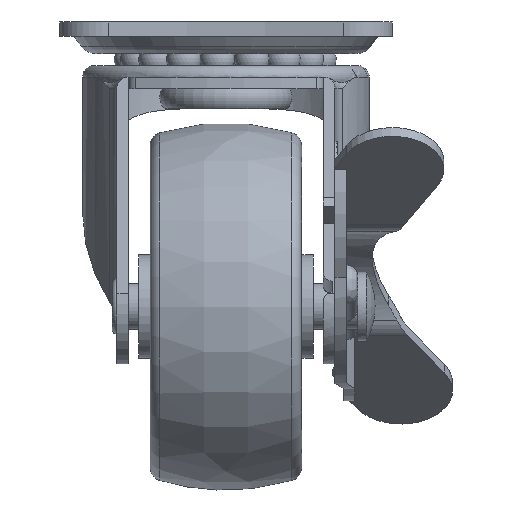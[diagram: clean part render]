
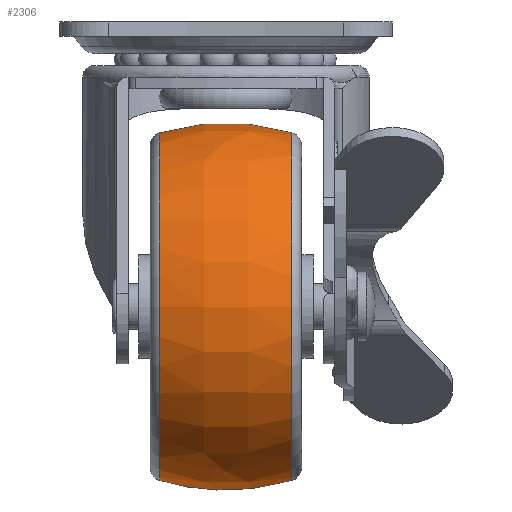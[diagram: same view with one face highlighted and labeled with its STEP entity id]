
A CAD part, left-side view. The second image highlights one B-rep face of the part: STEP entity #2306.
In plain terms, the highlighted free-form (B-spline) face has degree [3, 3] with [4, 7] control points.
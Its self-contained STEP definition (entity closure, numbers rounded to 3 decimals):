
#75=(
BOUNDED_SURFACE()
B_SPLINE_SURFACE(3,3,((#15840,#15841,#15842,#15843,#15844,#15845,#15846),
(#15847,#15848,#15849,#15850,#15851,#15852,#15853),(#15854,#15855,#15856,
#15857,#15858,#15859,#15860),(#15861,#15862,#15863,#15864,#15865,#15866,
#15867)),.UNSPECIFIED.,.F.,.T.,.F.)
B_SPLINE_SURFACE_WITH_KNOTS((4,4),(1,3,3,3,1),(0.,1.),(-0.5,0.,0.5,1.,1.5),
 .UNSPECIFIED.)
GEOMETRIC_REPRESENTATION_ITEM()
RATIONAL_B_SPLINE_SURFACE(((1.,0.333,0.333,1.,0.333,
0.333,1.),(0.972,0.324,0.324,
0.972,0.324,0.324,0.972),
(0.972,0.324,0.324,0.972,
0.324,0.324,0.972),(1.,0.333,
0.333,1.,0.333,0.333,1.)))
REPRESENTATION_ITEM('')
SURFACE()
);
#2306=ADVANCED_FACE('',(#2787,#2788),#75,.T.);
#2787=FACE_BOUND('',#3323,.T.);
#2788=FACE_BOUND('',#3324,.T.);
#3323=EDGE_LOOP('',(#5356));
#3324=EDGE_LOOP('',(#5357));
#5356=ORIENTED_EDGE('',*,*,#7641,.T.);
#5357=ORIENTED_EDGE('',*,*,#7636,.T.);
#6526=VERTEX_POINT('',#15825);
#6531=VERTEX_POINT('',#15837);
#7636=EDGE_CURVE('',#6526,#6526,#7988,.T.);
#7641=EDGE_CURVE('',#6531,#6531,#7993,.T.);
#7988=CIRCLE('',#8638,30.314);
#7993=CIRCLE('',#8645,30.314);
#8638=AXIS2_PLACEMENT_3D('',#15824,#10381,#10382);
#8645=AXIS2_PLACEMENT_3D('',#15836,#10395,#10396);
#10381=DIRECTION('',(0.,1.,0.));
#10382=DIRECTION('',(0.,0.,1.));
#10395=DIRECTION('',(0.,-1.,0.));
#10396=DIRECTION('',(0.,0.,-1.));
#15824=CARTESIAN_POINT('',(-29.,-11.489,-49.61));
#15825=CARTESIAN_POINT('',(-29.,-11.489,-19.296));
#15836=CARTESIAN_POINT('',(-29.,11.489,-49.61));
#15837=CARTESIAN_POINT('',(-29.,11.489,-79.924));
#15840=CARTESIAN_POINT('',(-29.,-11.489,-79.924));
#15841=CARTESIAN_POINT('',(31.629,-11.489,-79.924));
#15842=CARTESIAN_POINT('',(31.629,-11.489,-19.296));
#15843=CARTESIAN_POINT('',(-29.,-11.489,-19.296));
#15844=CARTESIAN_POINT('',(-89.629,-11.489,-19.296));
#15845=CARTESIAN_POINT('',(-89.629,-11.489,-79.924));
#15846=CARTESIAN_POINT('',(-29.,-11.489,-79.924));
#15847=CARTESIAN_POINT('',(-29.,-3.94,-82.188));
#15848=CARTESIAN_POINT('',(36.156,-3.94,-82.188));
#15849=CARTESIAN_POINT('',(36.156,-3.94,-17.032));
#15850=CARTESIAN_POINT('',(-29.,-3.94,-17.032));
#15851=CARTESIAN_POINT('',(-94.156,-3.94,-17.032));
#15852=CARTESIAN_POINT('',(-94.156,-3.94,-82.188));
#15853=CARTESIAN_POINT('',(-29.,-3.94,-82.188));
#15854=CARTESIAN_POINT('',(-29.,3.94,-82.188));
#15855=CARTESIAN_POINT('',(36.156,3.94,-82.188));
#15856=CARTESIAN_POINT('',(36.156,3.94,-17.032));
#15857=CARTESIAN_POINT('',(-29.,3.94,-17.032));
#15858=CARTESIAN_POINT('',(-94.156,3.94,-17.032));
#15859=CARTESIAN_POINT('',(-94.156,3.94,-82.188));
#15860=CARTESIAN_POINT('',(-29.,3.94,-82.188));
#15861=CARTESIAN_POINT('',(-29.,11.489,-79.924));
#15862=CARTESIAN_POINT('',(31.629,11.489,-79.924));
#15863=CARTESIAN_POINT('',(31.629,11.489,-19.296));
#15864=CARTESIAN_POINT('',(-29.,11.489,-19.296));
#15865=CARTESIAN_POINT('',(-89.629,11.489,-19.296));
#15866=CARTESIAN_POINT('',(-89.629,11.489,-79.924));
#15867=CARTESIAN_POINT('',(-29.,11.489,-79.924));
